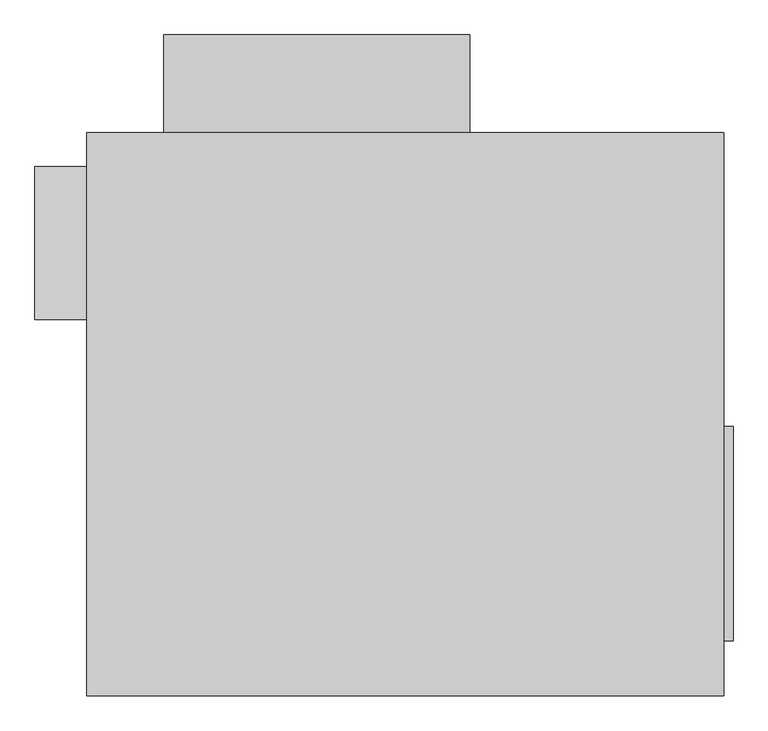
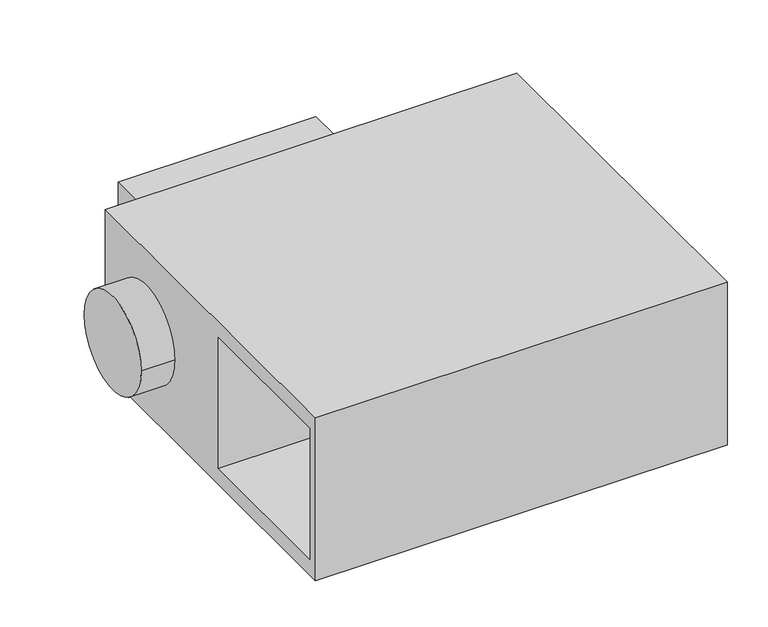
"""IFC4 building model written with IfcOpenShell, lengths in millimetres: proxy geometry, M_Unidad VAV - Alimentada por ventilador paralelo : Tamaño 4 - Entrada 250 mm."""

from ifc_helpers import new_model, si_unit, point, frame, frame_2d, origin, place, context, project, spatial, polyline, circle_curve, trimmed, segment, composite_curve, outline, extrude, faceted_brep, source, transform, mapped, element, save


def mechanical_equipment_cafec42d(model_context):
    return source(origin(), model_context, "Body", "SolidModel", [
        extrude(outline(polyline([(535.0, -20.0), (535.0, -370.0), (519.1125, -370.0), (519.1125, -20.0), (535.0, -20.0)])), frame((0.0, 0.0, -140.0), z_axis=(0.0, 0.0, 1.0), x_axis=(1.0, 0.0, 0.0)), (0.0, 0.0, 1.0), 280.0),
        extrude(outline(polyline([(105.0, 460.0), (-395.0, 460.0), (-395.0, 620.0), (105.0, 620.0), (105.0, 460.0)])), frame((0.0, 0.0, -150.0), z_axis=(0.0, 0.0, 1.0), x_axis=(1.0, 0.0, 0.0)), (0.0, 0.0, 1.0), 300.0),
        extrude(outline(composite_curve([segment(trimmed(circle_curve(frame_2d((280.0, 0.0)), 125.0), [point((155.0, 0.0))], [point((405.0, 0.0))], False, "CARTESIAN"), True, "CONTINUOUS"), segment(trimmed(circle_curve(frame_2d((280.0, 0.0)), 125.0), [point((405.0, 0.0))], [point((155.0, 0.0))], False, "CARTESIAN"), True, "CONTINUOUS")], self_intersect=False)), frame((-605.0, 0.0, 0.0), z_axis=(1.0, 0.0, 0.0), x_axis=(0.0, 1.0, 0.0)), (0.0, 0.0, 1.0), 85.0),
        faceted_brep([(520.0, 460.0, 217.5), (-520.0, 460.0, 217.5), (-520.0, -460.0, 217.5), (520.0, -460.0, 217.5), (520.0, 460.0, -217.5), (520.0, -460.0, -217.5), (-520.0, -460.0, -217.5), (-520.0, 460.0, -217.5), (-520.0, -435.0, 175.0), (-520.0, -435.0, -175.0), (-520.0, -35.0, -175.0), (-520.0, -35.0, 175.0), (0.0, -435.0, 175.0), (0.0, -35.0, 175.0), (0.0, -35.0, -175.0), (0.0, -435.0, -175.0)], [[[0, 1, 2, 3]], [[4, 5, 6, 7]], [[1, 0, 4, 7]], [[2, 1, 7, 6], [8, 9, 10, 11]], [[3, 2, 6, 5]], [[0, 3, 5, 4]], [[12, 13, 14, 15]], [[12, 15, 9, 8]], [[15, 14, 10, 9]], [[14, 13, 11, 10]], [[13, 12, 8, 11]]]),
    ])


if __name__ == "__main__":
    model = new_model("IFC4")
    model_context = context("Model", 3, world=origin())
    ifc_project = project(units=[si_unit("LENGTHUNIT", "METRE", prefix="MILLI")], contexts=[model_context])
    site = spatial("IfcSite", under=ifc_project)
    building = spatial("IfcBuilding", under=site)
    placement = place(None, origin())
    mechanical_equipment_shape = mechanical_equipment_cafec42d(model_context)
    element("IfcBuildingElementProxy", 1, Name="M_Unidad VAV - Alimentada por ventilador paralelo : Tamaño 4 - Entrada 250 mm", ObjectType="M_Unidad VAV - Alimentada por ventilador paralelo : Tamaño 4 - Entrada 250 mm", at=placement, inside=building, context=model_context, shape_type="MappedRepresentation", body=[
        mapped(mechanical_equipment_shape, transform((0.0, 0.0, 0.0), x_axis=(1.0, 0.0, 0.0), y_axis=(0.0, 1.0, 0.0), z_axis=(0.0, 0.0, 1.0))),
    ])
    save(model, "model.ifc")
